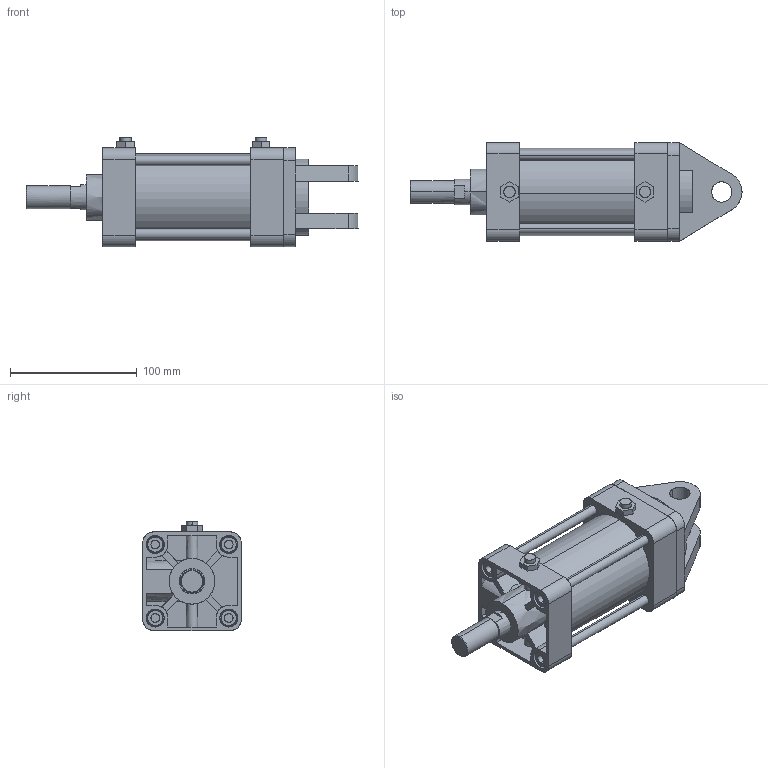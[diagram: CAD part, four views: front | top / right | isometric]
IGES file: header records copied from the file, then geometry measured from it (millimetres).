
Start section: SolidWorks IGES file using analytic representation for surfaces
Global section: file name: C:\Users\Toshiba\Desktop\KG2-63-50-W.IGS; native system: SolidWorks 2014; preprocessor: SolidWorks 2014; author: Toshiba; date: 160401.161730; units: millimetre
Bounding box: 262 x 78 x 86.3 mm (x, y, z)
Surface area: 145206.9 mm2 (no closed solid volume)
Topology: 0 solids, 0 shells, 358 faces, 5674 edges, 5666 vertices
Faces by surface type: bspline 189, revolution 169
